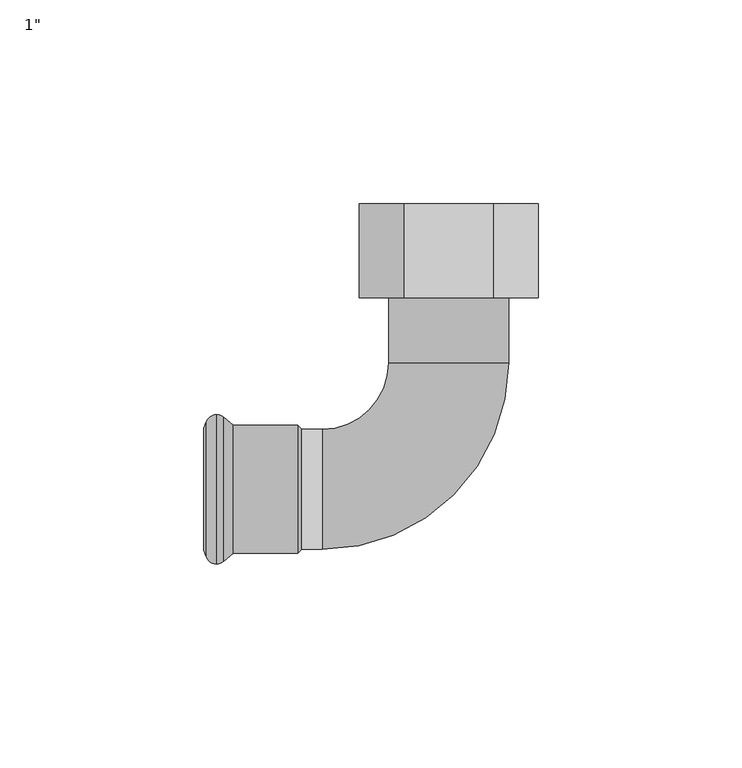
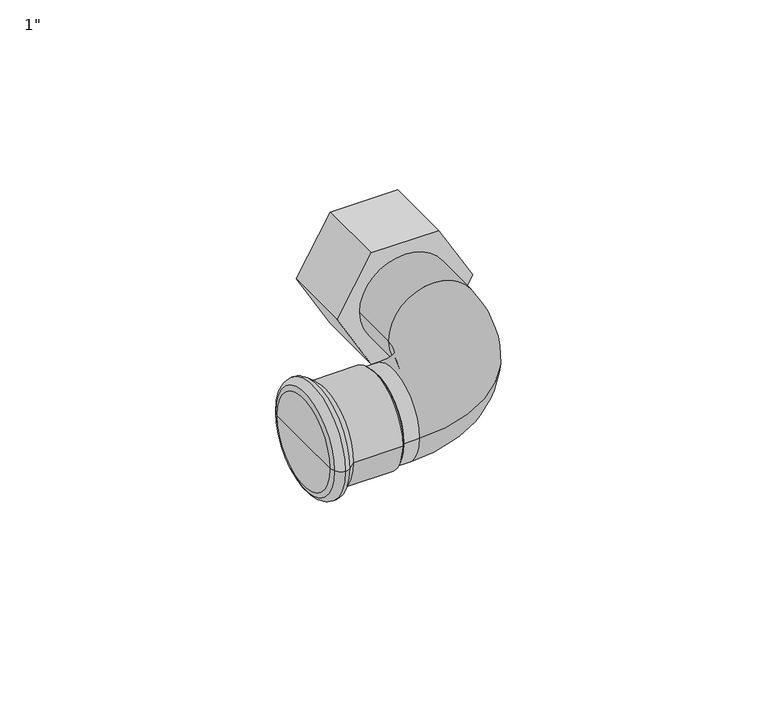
"""IFC4 building model written with IfcOpenShell, lengths in millimetres: pipe fitting geometry."""

from ifc_helpers import new_model, si_unit, point, frame, origin, place, context, project, spatial, polyline, circle_curve, ellipse_curve, trimmed, outline, extrude, source, transform, mapped, element, save
from ifc_brep_helpers import plane_surface, cylinder_surface, revolved_surface, advanced_brep


def pipe_fitting_25c9af5d(model_context):
    return source(origin(), model_context, "Body", "SolidModel", [
        advanced_brep(
        [(-14.7, 47.0, 0.0), (14.7, 47.0, 0.0), (-14.7, 31.0, 0.0), (14.7, 31.0, 0.0), (-36.0, 14.7, 0.0), (-36.0, -14.7, 0.0), (-31.0, -14.7, 0.0), (-31.0, 14.7, 0.0)],
        [
            (0, 1, circle_curve(frame((0.0, 47.0, 0.0), z_axis=(0.0, 1.0, 0.0), x_axis=(1.0, 0.0, 0.0)), 14.7)),
            (1, 0, circle_curve(frame((0.0, 47.0, 0.0), z_axis=(0.0, 1.0, 0.0), x_axis=(1.0, 0.0, 0.0)), 14.7)),
            (0, 2),
            (2, 3, circle_curve(frame((0.0, 31.0, 0.0), z_axis=(0.0, 1.0, 0.0), x_axis=(1.0, 0.0, 0.0)), 14.7)),
            (3, 1),
            (3, 2, circle_curve(frame((0.0, 31.0, 0.0), z_axis=(0.0, 1.0, 0.0), x_axis=(1.0, 0.0, 0.0)), 14.7)),
            (4, 5, circle_curve(frame((-36.0, 0.0, 0.0), z_axis=(-1.0, 0.0, 0.0), x_axis=(0.0, -1.0, 0.0)), 14.7)),
            (5, 4, circle_curve(frame((-36.0, 0.0, 0.0), z_axis=(-1.0, 0.0, 0.0), x_axis=(0.0, -1.0, 0.0)), 14.7)),
            (6, 7, circle_curve(frame((-31.0, 0.0, 0.0), z_axis=(-1.0, 0.0, 0.0), x_axis=(0.0, -1.0, 0.0)), 14.7)),
            (7, 4),
            (5, 6),
            (7, 6, circle_curve(frame((-31.0, 0.0, 0.0), z_axis=(-1.0, 0.0, 0.0), x_axis=(0.0, -1.0, 0.0)), 14.7)),
            (6, 3, circle_curve(frame((-31.0, 31.0, 0.0), z_axis=(0.0, 0.0, 1.0), x_axis=(1.0, 0.0, 0.0)), 45.7)),
            (2, 7, circle_curve(frame((-31.0, 31.0, 0.0), z_axis=(0.0, 0.0, -1.0), x_axis=(1.0, 0.0, 0.0)), 16.3)),
        ],
        [
            plane_surface(frame((0.0, 47.0, 0.0), z_axis=(0.0, 1.0, 0.0), x_axis=(0.0, 0.0, 1.0))),
            cylinder_surface(frame((0.0, 47.0, 0.0), z_axis=(0.0, 1.0, 0.0), x_axis=(1.0, 0.0, 0.0)), 14.7),
            plane_surface(frame((-36.0, 0.0, 0.0), z_axis=(-1.0, 0.0, 0.0), x_axis=(0.0, 0.0, 1.0))),
            cylinder_surface(frame((-31.0, 0.0, 0.0), z_axis=(1.0, 0.0, 0.0), x_axis=(0.0, -1.0, 0.0)), 14.7),
            revolved_surface(trimmed(ellipse_curve(frame((0.0, 31.0, 0.0), z_axis=(0.0, 1.0, 0.0), x_axis=(1.0, 0.0, 0.0)), 14.7, 14.7), [point((-14.7, 31.0, 0.0))], [point((14.7, 31.0, 0.0))], True, "CARTESIAN"), (-31.0, 31.0, 0.0), (0.0, 0.0, -1.0)),
            revolved_surface(trimmed(ellipse_curve(frame((0.0, 31.0, 0.0), z_axis=(0.0, 1.0, 0.0), x_axis=(1.0, 0.0, 0.0)), 14.7, 14.7), [point((14.7, 31.0, 0.0))], [point((-14.7, 31.0, 0.0))], True, "CARTESIAN"), (-31.0, 31.0, 0.0), (0.0, 0.0, -1.0)),
        ],
        [
            (0, [[1, 2]]),
            (1, [[-1, 3, 4, 5]]),
            (1, [[-2, -5, 6, -3]]),
            (2, [[7, 8]]),
            (3, [[9, 10, -8, 11]]),
            (3, [[12, -11, -7, -10]]),
            (4, [[13, -4, 14, -9]]),
            (5, [[-14, -6, -13, -12]]),
        ],
    ),
        extrude(outline(polyline([(0.0, 21.9393102), (19.0, 10.9696551), (19.0, -10.9696551), (0.0, -21.9393102), (-19.0, -10.9696551), (-19.0, 10.9696551), (0.0, 21.9393102)])), frame((0.0, 47.0, 0.0), z_axis=(0.0, 1.0, 0.0), x_axis=(0.0, 0.0, 1.0)), (0.0, 0.0, 1.0), 23.0),
        advanced_brep(
        [(-52.7838092, -15.7, 0.0), (-52.7838092, 15.7, 0.0), (-37.0, 15.7, 0.0), (-37.0, -15.7, 0.0), (-55.0922627, -17.6370225, 0.0), (-55.0922627, 17.6370225, 0.0), (-56.8921278, -18.325, 0.0), (-56.8921278, 18.325, 0.0), (-59.432052, -16.5484544, 0.0), (-59.432052, 16.5484544, 0.0), (-60.0, -14.9880302, 0.0), (-60.0, 14.9880302, 0.0), (-60.0, 0.0, 0.0), (-36.0, 14.7, 0.0), (-36.0, -14.7, 0.0), (-36.0, 0.0, 0.0)],
        [
            (0, 1, circle_curve(frame((-52.7838092, 0.0, 0.0), z_axis=(1.0, 0.0, 0.0), x_axis=(0.0, 1.0, 0.0)), 15.7)),
            (1, 2),
            (2, 3, circle_curve(frame((-37.0, 0.0, 0.0), z_axis=(-1.0, 0.0, 0.0), x_axis=(0.0, 1.0, 0.0)), 15.7)),
            (3, 0),
            (1, 0, circle_curve(frame((-52.7838092, 0.0, 0.0), z_axis=(1.0, 0.0, 0.0), x_axis=(0.0, 1.0, 0.0)), 15.7)),
            (3, 2, circle_curve(frame((-37.0, 0.0, 0.0), z_axis=(-1.0, 0.0, 0.0), x_axis=(0.0, 1.0, 0.0)), 15.7)),
            (4, 5, circle_curve(frame((-55.0922627, 0.0, 0.0), z_axis=(1.0, 0.0, 0.0), x_axis=(0.0, 1.0, 0.0)), 17.6370225)),
            (5, 1),
            (0, 4),
            (5, 4, circle_curve(frame((-55.0922627, 0.0, 0.0), z_axis=(1.0, 0.0, 0.0), x_axis=(0.0, 1.0, 0.0)), 17.6370225)),
            (6, 7, circle_curve(frame((-56.8921278, 0.0, 0.0), z_axis=(1.0, 0.0, 0.0), x_axis=(0.0, 1.0, 0.0)), 18.325)),
            (7, 5, circle_curve(frame((-56.8935049, 15.6230333, 0.0), z_axis=(0.0, 0.0, -1.0), x_axis=(1.0, 0.0, 0.0)), 2.701967)),
            (4, 6, circle_curve(frame((-56.8935049, -15.6230333, 0.0), z_axis=(0.0, 0.0, -1.0), x_axis=(1.0, 0.0, 0.0)), 2.701967)),
            (7, 6, circle_curve(frame((-56.8921278, 0.0, 0.0), z_axis=(1.0, 0.0, 0.0), x_axis=(0.0, 1.0, 0.0)), 18.325)),
            (8, 9, circle_curve(frame((-59.432052, 0.0, 0.0), z_axis=(1.0, 0.0, 0.0), x_axis=(0.0, 1.0, 0.0)), 16.5484544)),
            (9, 7, circle_curve(frame((-56.89488, 15.6249993, 0.0), z_axis=(0.0, 0.0, -1.0), x_axis=(1.0, 0.0, 0.0)), 2.7000021)),
            (6, 8, circle_curve(frame((-56.89488, -15.6249993, 0.0), z_axis=(0.0, 0.0, -1.0), x_axis=(1.0, 0.0, 0.0)), 2.7000021)),
            (9, 8, circle_curve(frame((-59.432052, 0.0, 0.0), z_axis=(1.0, 0.0, 0.0), x_axis=(0.0, 1.0, 0.0)), 16.5484544)),
            (10, 11, circle_curve(frame((-60.0, 0.0, 0.0), z_axis=(1.0, 0.0, 0.0), x_axis=(0.0, 1.0, 0.0)), 14.9880302)),
            (11, 9),
            (8, 10),
            (11, 10, circle_curve(frame((-60.0, 0.0, 0.0), z_axis=(1.0, 0.0, 0.0), x_axis=(0.0, 1.0, 0.0)), 14.9880302)),
            (12, 11),
            (10, 12),
            (2, 13),
            (13, 14, circle_curve(frame((-36.0, 0.0, 0.0), z_axis=(-1.0, 0.0, 0.0), x_axis=(0.0, 1.0, 0.0)), 14.7)),
            (14, 3),
            (14, 13, circle_curve(frame((-36.0, 0.0, 0.0), z_axis=(-1.0, 0.0, 0.0), x_axis=(0.0, 1.0, 0.0)), 14.7)),
            (13, 15),
            (15, 14),
        ],
        [
            cylinder_surface(frame((1334.742668, 0.0, 0.0), z_axis=(-1.0, 0.0, 0.0), x_axis=(0.0, 1.0, 0.0)), 15.7),
            revolved_surface(polyline([(-52.7838092, 15.7, 0.0), (-55.0922627, 17.6370225, 0.0)]), (1334.742668, 0.0, 0.0), (-1.0, 0.0, 0.0)),
            revolved_surface(trimmed(ellipse_curve(frame((-56.8935049, 15.6230333, 0.0), z_axis=(0.0, 0.0, 1.0), x_axis=(1.0, 0.0, 0.0)), 2.701967, 2.701967), [point((-55.0922627, 17.6370225, 0.0))], [point((-56.8921278, 18.325, 0.0))], True, "CARTESIAN"), (1334.742668, 0.0, 0.0), (-1.0, 0.0, 0.0)),
            revolved_surface(trimmed(ellipse_curve(frame((-56.89488, 15.6249993, 0.0), z_axis=(0.0, 0.0, 1.0), x_axis=(1.0, 0.0, 0.0)), 2.7000021, 2.7000021), [point((-56.8921278, 18.325, 0.0))], [point((-59.432052, 16.5484544, 0.0))], True, "CARTESIAN"), (1334.742668, 0.0, 0.0), (-1.0, 0.0, 0.0)),
            revolved_surface(polyline([(-59.432052, 16.5484544, 0.0), (-60.0, 14.9880302, 0.0)]), (1334.742668, 0.0, 0.0), (-1.0, 0.0, 0.0)),
            plane_surface(frame((-60.0, 0.0, 0.0), z_axis=(-1.0, 0.0, 0.0), x_axis=(0.0, 1.0, 0.0))),
            revolved_surface(polyline([(-36.0, 14.7, 0.0), (-37.0, 15.7, 0.0)]), (1334.742668, 0.0, 0.0), (-1.0, 0.0, 0.0)),
            plane_surface(frame((-36.0, 0.0, 0.0), z_axis=(1.0, 0.0, 0.0), x_axis=(0.0, 1.0, 0.0))),
        ],
        [
            (0, [[1, 2, 3, 4]]),
            (0, [[5, -4, 6, -2]]),
            (1, [[7, 8, -1, 9]]),
            (1, [[10, -9, -5, -8]]),
            (2, [[11, 12, -7, 13]]),
            (2, [[14, -13, -10, -12]]),
            (3, [[15, 16, -11, 17]]),
            (3, [[18, -17, -14, -16]]),
            (4, [[19, 20, -15, 21]]),
            (4, [[22, -21, -18, -20]]),
            (5, [[23, -19, 24]]),
            (5, [[-24, -22, -23]]),
            (6, [[-3, 25, 26, 27]]),
            (6, [[-6, -27, 28, -25]]),
            (7, [[-26, 29, 30]]),
            (7, [[-28, -30, -29]]),
        ],
    ),
    ])


if __name__ == "__main__":
    model = new_model("IFC4")
    model_context = context("Model", 3, world=origin())
    ifc_project = project(units=[si_unit("LENGTHUNIT", "METRE", prefix="MILLI")], contexts=[model_context])
    site = spatial("IfcSite", under=ifc_project)
    building = spatial("IfcBuilding", under=site)
    placement = place(None, origin())
    pipe_fitting_shape = pipe_fitting_25c9af5d(model_context)
    element("IfcPipeFitting", 1, ObjectType="KAN-therm Steel kolano z GW : 1\"", at=placement, inside=building, context=model_context, shape_type="MappedRepresentation", body=[
        mapped(pipe_fitting_shape, transform((0.0, 0.0, 0.0), x_axis=(1.0, 0.0, 0.0), y_axis=(0.0, 1.0, 0.0), z_axis=(0.0, 0.0, 1.0))),
    ])
    save(model, "model.ifc")
